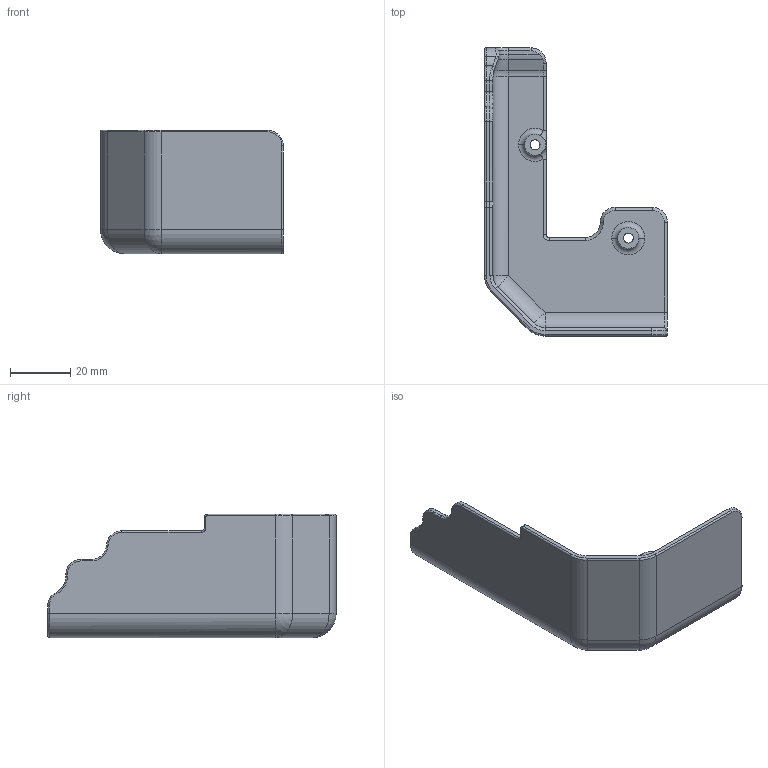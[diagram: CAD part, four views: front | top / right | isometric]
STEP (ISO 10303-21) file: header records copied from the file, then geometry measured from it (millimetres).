
FILE_DESCRIPTION(('CATIA V5 STEP Exchange'),'2;1');
FILE_NAME('E:\Dropbox\3D Printer Fan Duct Designs\1.) Artillery Sidewinder X1\3D Models\5015 Double Ducts\VOLCANO\BONUS_CLIP_DOUBLE FAN\COVER_MOTOR_DOUBLE-FAN\Cover Motor Without Fan.stp','2022-01-08T19:46:39+00:00',('none'),('none'),'CATIA Version 5 Release 20 SP 1 (IN-10)','CATIA V5 STEP AP214','none');
FILE_SCHEMA(('AUTOMOTIVE_DESIGN { 1 0 10303 214 1 1 1 1 }'));
Length unit declared in the file: millimetre
Products named in the file (1): COVER_MOTORE_ESTRUSORE
Bounding box: 60.8 x 95.8 x 41 mm (x, y, z)
Volume: 22263.7 mm3; surface area: 17030.7 mm2
Topology: 1 solids, 1 shells, 231 faces, 569 edges, 340 vertices
Faces by surface type: plane 95, cylinder 64, torus 24, cone 19, bspline 12, extrusion 11, sphere 6
Entity records: 8078 total; most frequent: CARTESIAN_POINT 2969, ORIENTED_EDGE 1126, DIRECTION 873, EDGE_CURVE 563, AXIS2_PLACEMENT_3D 354, VERTEX_POINT 340, VECTOR 325, LINE 314
